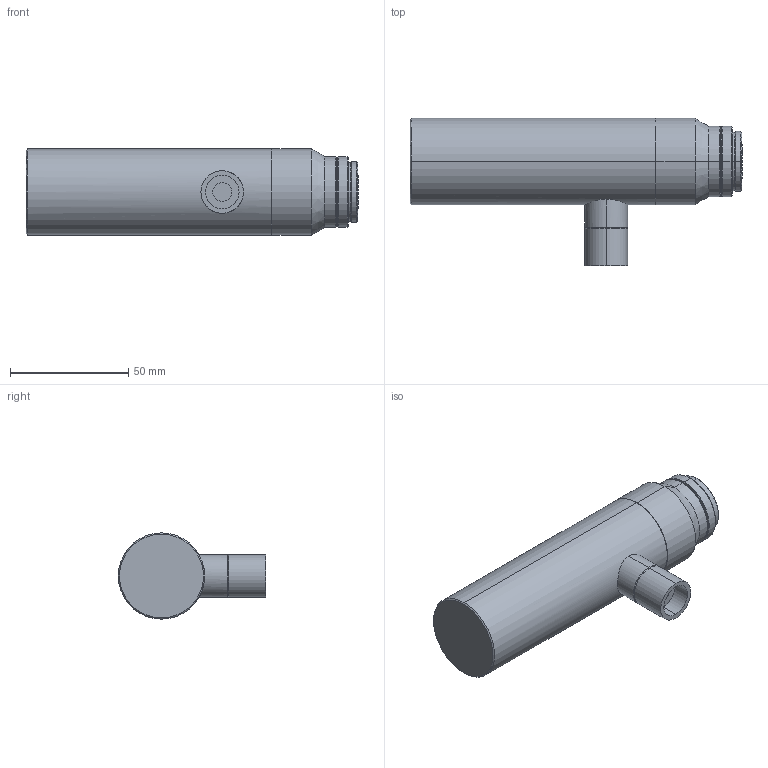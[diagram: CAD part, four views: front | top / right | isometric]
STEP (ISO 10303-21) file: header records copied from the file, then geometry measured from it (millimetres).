
FILE_DESCRIPTION (( 'STEP AP203' ), '1' );
FILE_NAME ('VS-TC08-220CO.STEP', '2017-07-27T05:56:33', ( 'miura_vst' ), ( '' ), 'SwSTEP 2.0', 'SolidWorks 2017', '' );
FILE_SCHEMA (( 'CONFIG_CONTROL_DESIGN' ));
Length unit declared in the file: millimetre
Products named in the file (1): VS-TC08-220CO
Bounding box: 140.4 x 62.3 x 36.5 mm (x, y, z)
Volume: 145213.8 mm3; surface area: 19741.3 mm2
Topology: 1 solids, 1 shells, 57 faces, 112 edges, 64 vertices
Faces by surface type: cone 26, cylinder 22, plane 9
Entity records: 1622 total; most frequent: CARTESIAN_POINT 331, DIRECTION 288, ORIENTED_EDGE 224, AXIS2_PLACEMENT_3D 120, EDGE_CURVE 112, VERTEX_POINT 64, EDGE_LOOP 64, CIRCLE 62
